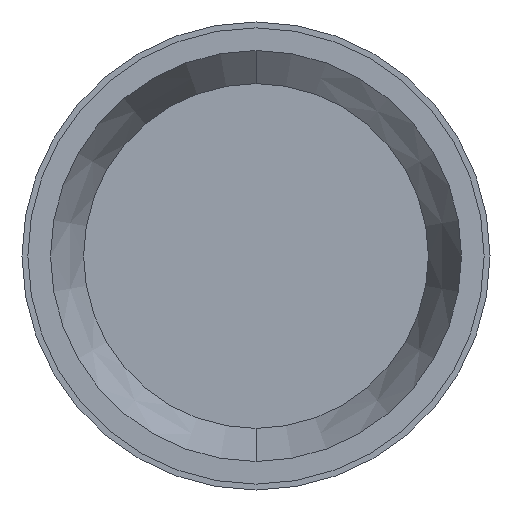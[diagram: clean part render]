
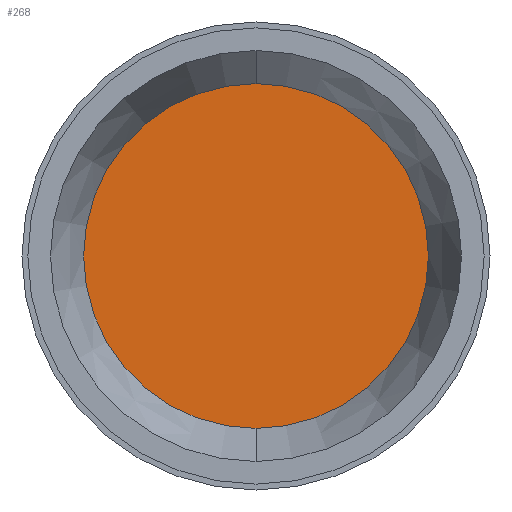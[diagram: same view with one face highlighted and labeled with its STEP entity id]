
A CAD part, front view. The second image highlights one B-rep face of the part: STEP entity #268.
In plain terms, the highlighted planar face has unit normal (0, -1, 0).
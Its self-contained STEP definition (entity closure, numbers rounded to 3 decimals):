
#6 = EDGE_LOOP ( 'NONE', ( #21, #221 ) ) ;
#21 = ORIENTED_EDGE ( 'NONE', *, *, #244, .T. ) ;
#60 = DIRECTION ( 'NONE',  ( 0., -1., 0. ) ) ;
#66 = PLANE ( 'NONE',  #246 ) ;
#108 = FACE_OUTER_BOUND ( 'NONE', #6, .T. ) ;
#123 = CARTESIAN_POINT ( 'NONE',  ( 0., 6., 14.732 ) ) ;
#126 = CARTESIAN_POINT ( 'NONE',  ( 0., 6., -14.732 ) ) ;
#132 = CIRCLE ( 'NONE', #165, 14.732 ) ;
#138 = CIRCLE ( 'NONE', #147, 14.732 ) ;
#145 = EDGE_CURVE ( 'NONE', #174, #156, #132, .T. ) ;
#147 = AXIS2_PLACEMENT_3D ( 'NONE', #186, #60, #281 ) ;
#148 = CARTESIAN_POINT ( 'NONE',  ( 0., 6., 0. ) ) ;
#156 = VERTEX_POINT ( 'NONE', #126 ) ;
#161 = CARTESIAN_POINT ( 'NONE',  ( 0., 6., 0. ) ) ;
#165 = AXIS2_PLACEMENT_3D ( 'NONE', #161, #248, #254 ) ;
#174 = VERTEX_POINT ( 'NONE', #123 ) ;
#186 = CARTESIAN_POINT ( 'NONE',  ( 0., 6., 0. ) ) ;
#187 = DIRECTION ( 'NONE',  ( 0., 0., -1. ) ) ;
#192 = DIRECTION ( 'NONE',  ( 0., -1., 0. ) ) ;
#221 = ORIENTED_EDGE ( 'NONE', *, *, #145, .T. ) ;
#244 = EDGE_CURVE ( 'NONE', #156, #174, #138, .T. ) ;
#246 = AXIS2_PLACEMENT_3D ( 'NONE', #148, #192, #187 ) ;
#248 = DIRECTION ( 'NONE',  ( 0., -1., 0. ) ) ;
#254 = DIRECTION ( 'NONE',  ( 0., 0., -1. ) ) ;
#268 = ADVANCED_FACE ( 'NONE', ( #108 ), #66, .T. ) ;
#281 = DIRECTION ( 'NONE',  ( 0., 0., -1. ) ) ;
